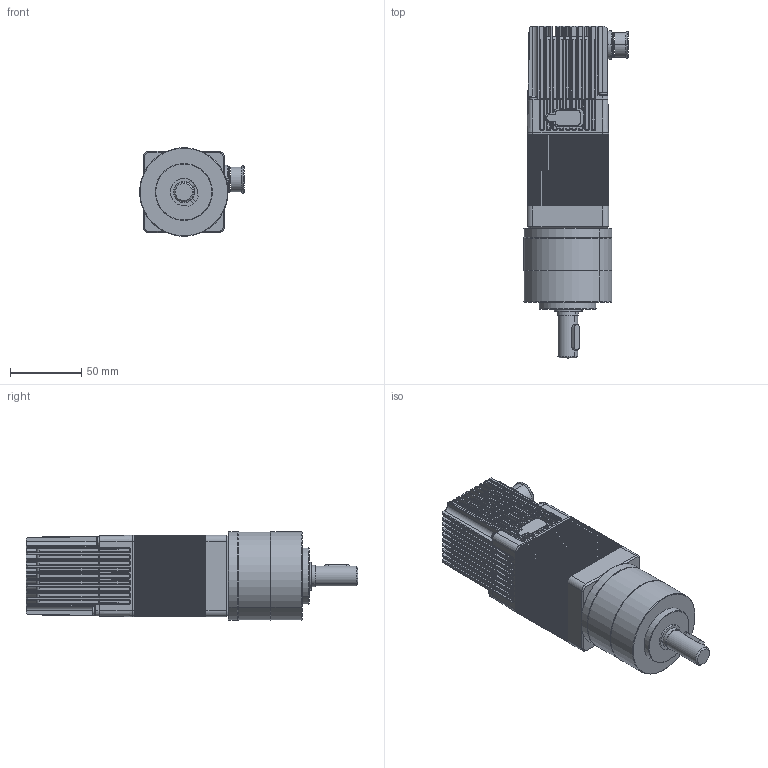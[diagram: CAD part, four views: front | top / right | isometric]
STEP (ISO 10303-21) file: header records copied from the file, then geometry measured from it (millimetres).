
FILE_DESCRIPTION((''),'2;1');
FILE_NAME('ENV_SIMP_STEP_TEMP','2012-10-24T',('VALJBL1'),('CROUZET-AUTOMATISMES'),'PRO/ENGINEER BY PARAMETRIC TECHNOLOGY CORPORATION, 2012090','PRO/ENGINEER BY PARAMETRIC TECHNOLOGY CORPORATION, 2012090','');
FILE_SCHEMA(('CONFIG_CONTROL_DESIGN'));
Products named in the file (1): ENV_SIMP_STEP_TEMP
Bounding box: 73.23 x 232.8 x 61.76 mm (x, y, z)
Surface area: 101432.3 mm2 (no closed solid volume)
Topology: 0 solids, 199 shells, 3123 faces, 9553 edges, 6454 vertices
Faces by surface type: cylinder 1457, plane 1417, sphere 112, torus 59, bspline 50, cone 28
Entity records: 111665 total; most frequent: CARTESIAN_POINT 31191, DIRECTION 16596, ORIENTED_EDGE 14516, EDGE_CURVE 9553, VERTEX_POINT 6454, VECTOR 5772, LINE 5772, AXIS2_PLACEMENT_3D 5412
